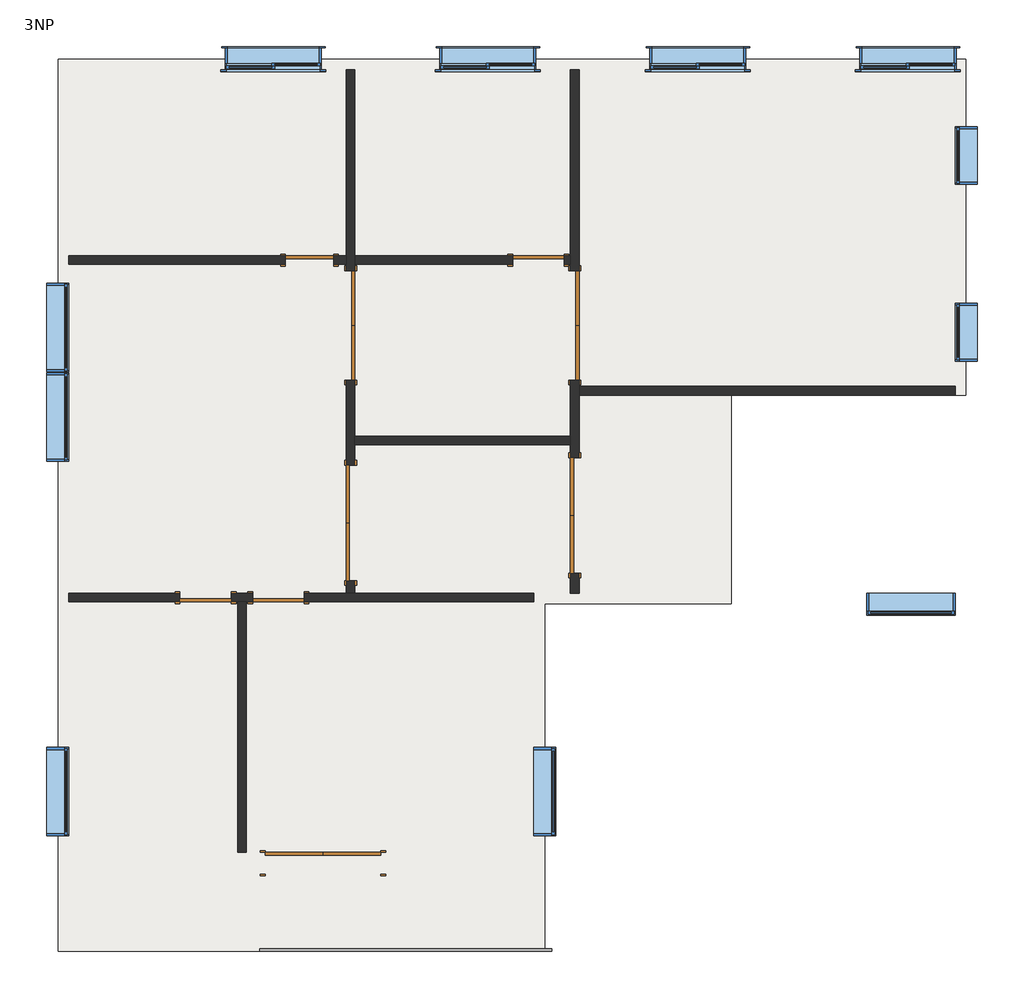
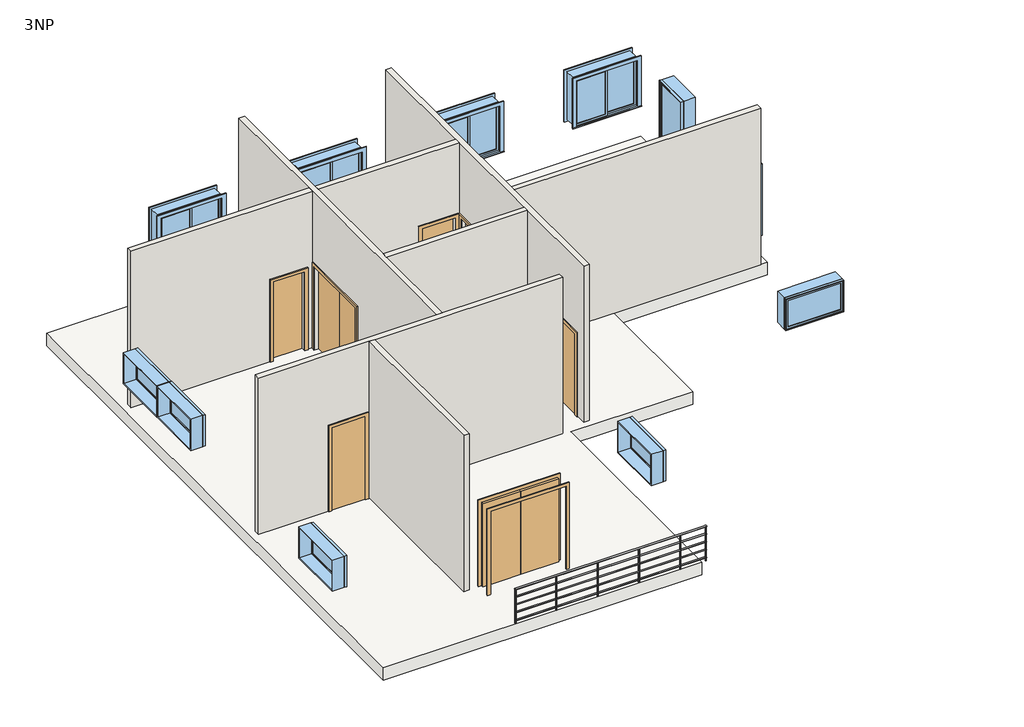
# One storey: 11 windows, 9 doors, 8 walls, 1 railing, 1 slab.
"""IFC4 building model written with IfcOpenShell, lengths in millimetres."""

from ifc_helpers import new_model, si_unit, frame, origin, place, context, project, spatial, polyline, outline, extrude, faceted_brep, transform, mapped, element, save
from components import m_double_flush_1730_x_2134mm_ea805d98, m_double_flush_1830_x_2083mm_7a28c534, m_double_flush_1830_x_2134mm_224c2c1d, m_single_flush_0762_x_2032mm_93de2473, m_single_flush_0813_x_2134mm_bf4bb56d, m_single_flush_0813_x_2134mm_cfdfac75, railing_900mm_pipe_c553a1ad, m_fixed_0915_x_1830mm_e21fde83, m_fixed_1400_x_0800mm_a23a53e8, m_sliding_with_trim_1830_x_1220mm_f8e2f31e

model = new_model("IFC4")

# Units and contexts
model_context = context("Model", 3, world=origin())
ifc_project = project(units=[si_unit("LENGTHUNIT", "METRE", prefix="MILLI")], contexts=[model_context])

# Site, building, storey
site = spatial("IfcSite", under=ifc_project)
building = spatial("IfcBuilding", under=site)
storey = spatial("IfcBuildingStorey", under=building, Name="3NP", Elevation=8000.0)

# Doors
placement = place(None, origin())
m_double_flush_1730_x_2134mm_shape = m_double_flush_1730_x_2134mm_ea805d98(model_context)
element("IfcDoor", 1, ObjectType="M_Double-Flush : 1730 x 2134mm", at=placement, inside=storey, context=model_context, shape_type="MappedRepresentation", body=[
    mapped(m_double_flush_1730_x_2134mm_shape, transform((833.993045, 5665.0261065, 8000.0), x_axis=(0.0, 1.0, 0.0), y_axis=(-1.0, 0.0, 0.0), z_axis=(0.0, 0.0, 1.0))),
])
element("IfcDoor", 2, ObjectType="M_Double-Flush : 1730 x 2134mm", at=placement, inside=storey, context=model_context, shape_type="MappedRepresentation", body=[
    mapped(m_double_flush_1730_x_2134mm_shape, transform((-2716.006955, 5665.0261065, 8000.0), x_axis=(0.0, 1.0, 0.0), y_axis=(-1.0, 0.0, 0.0), z_axis=(0.0, 0.0, 1.0))),
])
m_double_flush_1830_x_2083mm_shape = m_double_flush_1830_x_2083mm_7a28c534(model_context)
element("IfcDoor", 3, ObjectType="M_Double-Flush : 1830 x 2083mm", at=placement, inside=storey, context=model_context, shape_type="MappedRepresentation", body=[
    mapped(m_double_flush_1830_x_2083mm_shape, transform((-2716.006955, 2539.8026806, 8000.0), x_axis=(0.0, 1.0, 0.0), y_axis=(-1.0, 0.0, 0.0), z_axis=(0.0, 0.0, 1.0))),
])
element("IfcDoor", 4, ObjectType="M_Double-Flush : 1830 x 2083mm", at=placement, inside=storey, context=model_context, shape_type="MappedRepresentation", body=[
    mapped(m_double_flush_1830_x_2083mm_shape, transform((833.993045, 2658.1003657, 8000.0), x_axis=(0.0, 1.0, 0.0), y_axis=(-1.0, 0.0, 0.0), z_axis=(0.0, 0.0, 1.0))),
])
m_double_flush_1830_x_2134mm_shape = m_double_flush_1830_x_2134mm_224c2c1d(model_context)
element("IfcDoor", 5, ObjectType="M_Double-Flush : 1830 x 2134mm", at=placement, inside=storey, context=model_context, shape_type="MappedRepresentation", body=[
    mapped(m_double_flush_1830_x_2134mm_shape, transform((-3151.8077176, -2850.1973194, 8000.0), x_axis=(0.9999999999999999, 0.0, 0.0), y_axis=(0.0, 0.9999999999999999, 0.0), z_axis=(0.0, 0.0, 1.0))),
])
m_single_flush_0762_x_2032mm_shape = m_single_flush_0762_x_2032mm_93de2473(model_context)
element("IfcDoor", 6, ObjectType="M_Single-Flush : 0762 x 2032mm", at=placement, inside=storey, context=model_context, shape_type="MappedRepresentation", body=[
    mapped(m_single_flush_0762_x_2032mm_shape, transform((-3366.256955, 6699.2761065, 8000.0), x_axis=(1.0, 0.0, 0.0), y_axis=(0.0, 1.0, 0.0), z_axis=(0.0, 0.0, 1.0))),
])
m_single_flush_0813_x_2134mm_shape = m_single_flush_0813_x_2134mm_bf4bb56d(model_context)
element("IfcDoor", 7, ObjectType="M_Single-Flush : 0813 x 2134mm", at=placement, inside=storey, context=model_context, shape_type="MappedRepresentation", body=[
    mapped(m_single_flush_0813_x_2134mm_shape, transform((-5011.8077176, 1355.5526806, 8000.0), x_axis=(1.0, 0.0, 0.0), y_axis=(0.0, 1.0, 0.0), z_axis=(0.0, 0.0, 1.0))),
])
m_single_flush_0813_x_2134mm_2_shape = m_single_flush_0813_x_2134mm_cfdfac75(model_context)
element("IfcDoor", 8, ObjectType="M_Single-Flush : 0813 x 2134mm", at=placement, inside=storey, context=model_context, shape_type="MappedRepresentation", body=[
    mapped(m_single_flush_0813_x_2134mm_2_shape, transform((-3860.3077176, 1355.5526806, 8000.0), x_axis=(-1.0, 0.0, 0.0), y_axis=(0.0, -1.0, 0.0), z_axis=(0.0, 0.0, 1.0))),
])
element("IfcDoor", 9, ObjectType="M_Single-Flush : 0813 x 2134mm", at=placement, inside=storey, context=model_context, shape_type="MappedRepresentation", body=[
    mapped(m_single_flush_0813_x_2134mm_2_shape, transform((258.243045, 6699.2761065, 8000.0), x_axis=(1.0, 0.0, 0.0), y_axis=(0.0, 1.0, 0.0), z_axis=(0.0, 0.0, 1.0))),
])

# Railing
railing_900mm_pipe_shape = railing_900mm_pipe_c553a1ad(model_context)
element("IfcRailing", 10, ObjectType="900mm Pipe", at=placement, inside=storey, context=model_context, shape_type="MappedRepresentation", body=[
    mapped(railing_900mm_pipe_shape, transform((0.0, 0.0, 0.0), x_axis=(1.0, 0.0, 0.0), y_axis=(0.0, 1.0, 0.0), z_axis=(0.0, 0.0, 1.0))),
])

# Slab
element("IfcSlab", 11, ObjectType="Residential 320mm", at=placement, inside=storey, context=model_context, shape_type="SweptSolid", body=[
    extrude(outline(polyline([(-7345.3077176, 9876.6003657), (7023.993045, 9876.6003657), (7023.993045, 4561.5261065), (3308.993045, 4561.5261065), (3308.993045, 1259.8026806), (357.3775179, 1259.8026806), (357.3775179, -4240.1973194), (-7345.3077176, -4240.1973194), (-7345.3077176, 9876.6003657)])), frame((0.0, 0.0, 7680.0), z_axis=(0.0, 0.0, 1.0), x_axis=(1.0, 0.0, 0.0)), (0.0, 0.0, 1.0), 320.0),
])

# Walls
element("IfcWall", 12, ObjectType="Interior - 138mm Partition (1-hr)", at=placement, inside=storey, context=model_context, shape_type="Brep", body=[
    faceted_brep([(-4266.8077176, 1424.8026806, 10134.0), (-4266.8077176, 1424.8026806, 8000.0), (-4605.3077176, 1424.8026806, 8000.0), (-4605.3077176, 1424.8026806, 10134.0), (-5418.3077176, 1424.8026806, 10134.0), (-5418.3077176, 1424.8026806, 8000.0), (-7180.3077176, 1424.8026806, 8000.0), (-7180.3077176, 1424.8026806, 12000.0), (-2785.256955, 1424.8026806, 12000.0), (-2646.756955, 1424.8026806, 12000.0), (182.3775179, 1424.8026806, 12000.0), (182.3775179, 1424.8026806, 8000.0), (-2646.756955, 1424.8026806, 8000.0), (-2785.256955, 1424.8026806, 8000.0), (-3453.8077176, 1424.8026806, 8000.0), (-3453.8077176, 1424.8026806, 10134.0), (-4605.3077176, 1286.3026806, 8000.0), (-4505.3077176, 1286.3026806, 8000.0), (-4366.8077176, 1286.3026806, 8000.0), (-4266.8077176, 1286.3026806, 8000.0), (-4266.8077176, 1286.3026806, 10134.0), (-3453.8077176, 1286.3026806, 10134.0), (-3453.8077176, 1286.3026806, 8000.0), (182.3775179, 1286.3026806, 8000.0), (182.3775179, 1286.3026806, 12000.0), (-4366.8077176, 1286.3026806, 12000.0), (-4505.3077176, 1286.3026806, 12000.0), (-7180.3077176, 1286.3026806, 12000.0), (-7180.3077176, 1286.3026806, 8000.0), (-5418.3077176, 1286.3026806, 8000.0), (-5418.3077176, 1286.3026806, 10134.0), (-4605.3077176, 1286.3026806, 10134.0)], [[[0, 1, 2, 3, 4, 5, 6, 7, 8, 9, 10, 11, 12, 13, 14, 15]], [[16, 17, 18, 19, 20, 21, 22, 23, 24, 25, 26, 27, 28, 29, 30, 31]], [[2, 1, 19, 18, 17, 16]], [[29, 28, 6, 5]], [[14, 13, 12, 11, 23, 22]], [[10, 9, 8, 7, 27, 26, 25, 24]], [[7, 6, 28, 27]], [[11, 10, 24, 23]], [[3, 2, 16, 31]], [[4, 3, 31, 30]], [[5, 4, 30, 29]], [[20, 19, 1, 0]], [[21, 20, 0, 15]], [[22, 21, 15, 14]]]),
])
element("IfcWall", 13, ObjectType="Interior - 138mm Partition (1-hr)", at=placement, inside=storey, context=model_context, shape_type="SweptSolid", body=[
    extrude(outline(polyline([(-4505.3077176, -2675.1973194), (-4505.3077176, 1286.3026806), (-4366.8077176, 1286.3026806), (-4366.8077176, -2675.1973194), (-4505.3077176, -2675.1973194)])), frame((0.0, 0.0, 8000.0), z_axis=(0.0, 0.0, 1.0), x_axis=(1.0, 0.0, 0.0)), (0.0, 0.0, 1.0), 4000.0),
])
element("IfcWall", 14, ObjectType="Interior - 138mm Partition (1-hr)", at=placement, inside=storey, context=model_context, shape_type="Brep", body=[
    faceted_brep([(903.243045, 3573.1003657, 10083.0), (903.243045, 3573.1003657, 8000.0), (903.243045, 4561.5261065, 8000.0), (903.243045, 4700.0261065, 8000.0), (903.243045, 4800.0261065, 8000.0), (903.243045, 4800.0261065, 10134.0), (903.243045, 6530.0261065, 10134.0), (903.243045, 6530.0261065, 8000.0), (903.243045, 9711.6003657, 8000.0), (903.243045, 9711.6003657, 12000.0), (903.243045, 4700.0261065, 12000.0), (903.243045, 4561.5261065, 12000.0), (903.243045, 1424.8026806, 12000.0), (903.243045, 1424.8026806, 8000.0), (903.243045, 1743.1003657, 8000.0), (903.243045, 1743.1003657, 10083.0), (764.743045, 4800.0261065, 8000.0), (764.743045, 3911.6003657, 8000.0), (764.743045, 3773.1003657, 8000.0), (764.743045, 3573.1003657, 8000.0), (764.743045, 3573.1003657, 10083.0), (764.743045, 1743.1003657, 10083.0), (764.743045, 1743.1003657, 8000.0), (764.743045, 1424.8026806, 8000.0), (764.743045, 1424.8026806, 12000.0), (764.743045, 3773.1003657, 12000.0), (764.743045, 3911.6003657, 12000.0), (764.743045, 6630.0261065, 12000.0), (764.743045, 6768.5261065, 12000.0), (764.743045, 9711.6003657, 12000.0), (764.743045, 9711.6003657, 8000.0), (764.743045, 6768.5261065, 8000.0), (764.743045, 6630.0261065, 8000.0), (764.743045, 6530.0261065, 8000.0), (764.743045, 6530.0261065, 10134.0), (764.743045, 4800.0261065, 10134.0), (833.993045, 9711.6003657, 8000.0), (833.993045, 9711.6003657, 12000.0)], [[[0, 1, 2, 3, 4, 5, 6, 7, 8, 9, 10, 11, 12, 13, 14, 15]], [[16, 17, 18, 19, 20, 21, 22, 23, 24, 25, 26, 27, 28, 29, 30, 31, 32, 33, 34, 35]], [[8, 7, 33, 32, 31, 30, 36]], [[4, 3, 2, 1, 19, 18, 17, 16]], [[14, 13, 23, 22]], [[12, 11, 10, 9, 37, 29, 28, 27, 26, 25, 24]], [[9, 8, 36, 30, 29, 37]], [[13, 12, 24, 23]], [[34, 33, 7, 6]], [[35, 34, 6, 5]], [[16, 35, 5, 4]], [[20, 19, 1, 0]], [[21, 20, 0, 15]], [[22, 21, 15, 14]]]),
])
element("IfcWall", 15, ObjectType="Interior - 138mm Partition (1-hr)", at=placement, inside=storey, context=model_context, shape_type="SweptSolid", body=[
    extrude(outline(polyline([(-2646.756955, 3911.6003657), (764.743045, 3911.6003657), (764.743045, 3773.1003657), (-2646.756955, 3773.1003657), (-2646.756955, 3911.6003657)])), frame((0.0, 0.0, 8000.0), z_axis=(0.0, 0.0, 1.0), x_axis=(1.0, 0.0, 0.0)), (0.0, 0.0, 1.0), 4000.0),
])
element("IfcWall", 16, ObjectType="Interior - 138mm Partition (1-hr)", at=placement, inside=storey, context=model_context, shape_type="Brep", body=[
    faceted_brep([(-2646.756955, 3454.8026806, 10083.0), (-2646.756955, 3454.8026806, 8000.0), (-2646.756955, 3773.1003657, 8000.0), (-2646.756955, 3911.6003657, 8000.0), (-2646.756955, 4800.0261065, 8000.0), (-2646.756955, 4800.0261065, 10134.0), (-2646.756955, 6530.0261065, 10134.0), (-2646.756955, 6530.0261065, 8000.0), (-2646.756955, 6630.0261065, 8000.0), (-2646.756955, 6768.5261065, 8000.0), (-2646.756955, 9711.6003657, 8000.0), (-2646.756955, 9711.6003657, 12000.0), (-2646.756955, 6768.5261065, 12000.0), (-2646.756955, 6630.0261065, 12000.0), (-2646.756955, 3911.6003657, 12000.0), (-2646.756955, 3773.1003657, 12000.0), (-2646.756955, 1424.8026806, 12000.0), (-2646.756955, 1424.8026806, 8000.0), (-2646.756955, 1624.8026806, 8000.0), (-2646.756955, 1624.8026806, 10083.0), (-2785.256955, 4800.0261065, 8000.0), (-2785.256955, 3454.8026806, 8000.0), (-2785.256955, 3454.8026806, 10083.0), (-2785.256955, 1624.8026806, 10083.0), (-2785.256955, 1624.8026806, 8000.0), (-2785.256955, 1424.8026806, 8000.0), (-2785.256955, 1424.8026806, 12000.0), (-2785.256955, 6630.0261065, 12000.0), (-2785.256955, 6768.5261065, 12000.0), (-2785.256955, 9711.6003657, 12000.0), (-2785.256955, 9711.6003657, 8000.0), (-2785.256955, 6768.5261065, 8000.0), (-2785.256955, 6630.0261065, 8000.0), (-2785.256955, 6530.0261065, 8000.0), (-2785.256955, 6530.0261065, 10134.0), (-2785.256955, 4800.0261065, 10134.0)], [[[0, 1, 2, 3, 4, 5, 6, 7, 8, 9, 10, 11, 12, 13, 14, 15, 16, 17, 18, 19]], [[20, 21, 22, 23, 24, 25, 26, 27, 28, 29, 30, 31, 32, 33, 34, 35]], [[10, 9, 8, 7, 33, 32, 31, 30]], [[4, 3, 2, 1, 21, 20]], [[18, 17, 25, 24]], [[16, 15, 14, 13, 12, 11, 29, 28, 27, 26]], [[17, 16, 26, 25]], [[11, 10, 30, 29]], [[34, 33, 7, 6]], [[35, 34, 6, 5]], [[20, 35, 5, 4]], [[22, 21, 1, 0]], [[23, 22, 0, 19]], [[24, 23, 19, 18]]]),
])
element("IfcWall", 17, ObjectType="Interior - 138mm Partition (1-hr)", at=placement, inside=storey, context=model_context, shape_type="SweptSolid", body=[
    extrude(outline(polyline([(10134.0, 664.743045), (8000.0, 664.743045), (8000.0, 764.743045), (12000.0, 764.743045), (12000.0, -2646.756955), (8000.0, -2646.756955), (8000.0, -148.256955), (10134.0, -148.256955), (10134.0, 664.743045)])), frame((0.0, 6630.0261065, 0.0), z_axis=(0.0, 1.0, 0.0), x_axis=(0.0, 0.0, 1.0)), (0.0, 0.0, 1.0), 138.5),
])
element("IfcWall", 18, ObjectType="Interior - 138mm Partition (1-hr)", at=placement, inside=storey, context=model_context, shape_type="SweptSolid", body=[
    extrude(outline(polyline([(10032.0, -2985.256955), (8000.0, -2985.256955), (8000.0, -2785.256955), (12000.0, -2785.256955), (12000.0, -7180.3077176), (8000.0, -7180.3077176), (8000.0, -3747.256955), (10032.0, -3747.256955), (10032.0, -2985.256955)])), frame((0.0, 6630.0261065, 0.0), z_axis=(0.0, 1.0, 0.0), x_axis=(0.0, 0.0, 1.0)), (0.0, 0.0, 1.0), 138.5),
])
element("IfcWall", 19, ObjectType="Interior - 138mm Partition (1-hr)", at=placement, inside=storey, context=model_context, shape_type="SweptSolid", body=[
    extrude(outline(polyline([(6858.993045, 4561.5261065), (903.243045, 4561.5261065), (903.243045, 4700.0261065), (6858.993045, 4700.0261065), (6858.993045, 4561.5261065)])), frame((0.0, 0.0, 8000.0), z_axis=(0.0, 0.0, 1.0), x_axis=(1.0, 0.0, 0.0)), (0.0, 0.0, 1.0), 4000.0),
])

# Windows
m_fixed_0915_x_1830mm_shape = m_fixed_0915_x_1830mm_e21fde83(model_context)
element("IfcWindow", 20, ObjectType="M_Fixed : 0915 x 1830mm", at=placement, inside=storey, context=model_context, shape_type="MappedRepresentation", body=[
    mapped(m_fixed_0915_x_1830mm_shape, transform((7046.993045, 5557.5261065, 8000.0), x_axis=(0.0, 1.0, 0.0), y_axis=(-1.0, 0.0, 0.0), z_axis=(0.0, 0.0, 1.0))),
])
element("IfcWindow", 21, ObjectType="M_Fixed : 0915 x 1830mm", at=placement, inside=storey, context=model_context, shape_type="MappedRepresentation", body=[
    mapped(m_fixed_0915_x_1830mm_shape, transform((7046.993045, 8354.1003657, 8000.0), x_axis=(0.0, 1.0, 0.0), y_axis=(-1.0, 0.0, 0.0), z_axis=(0.0, 0.0, 1.0))),
])
m_fixed_1400_x_0800mm_shape = m_fixed_1400_x_0800mm_a23a53e8(model_context)
element("IfcWindow", 22, ObjectType="M_Fixed : 1400 x 0800mm", at=placement, inside=storey, context=model_context, shape_type="MappedRepresentation", body=[
    mapped(m_fixed_1400_x_0800mm_shape, transform((-7368.3077176, -1717.6973194, 8000.0), x_axis=(0.0, -1.0, 0.0), y_axis=(1.0, 0.0, 0.0), z_axis=(0.0, 0.0, 1.0))),
])
element("IfcWindow", 23, ObjectType="M_Fixed : 1400 x 0800mm", at=placement, inside=storey, context=model_context, shape_type="MappedRepresentation", body=[
    mapped(m_fixed_1400_x_0800mm_shape, transform((-7368.3077176, 4217.3026806, 8000.0), x_axis=(0.0, -1.0, 0.0), y_axis=(1.0, 0.0, 0.0), z_axis=(0.0, 0.0, 1.0))),
])
element("IfcWindow", 24, ObjectType="M_Fixed : 1400 x 0800mm", at=placement, inside=storey, context=model_context, shape_type="MappedRepresentation", body=[
    mapped(m_fixed_1400_x_0800mm_shape, transform((-7368.3077176, 5632.3026806, 8000.0), x_axis=(0.0, -1.0, 0.0), y_axis=(1.0, 0.0, 0.0), z_axis=(0.0, 0.0, 1.0))),
])
element("IfcWindow", 25, ObjectType="M_Fixed : 1400 x 0800mm", at=placement, inside=storey, context=model_context, shape_type="MappedRepresentation", body=[
    mapped(m_fixed_1400_x_0800mm_shape, transform((344.3775179, -1717.6973194, 8000.0), x_axis=(0.0, -1.0, 0.0), y_axis=(1.0, 0.0, 0.0), z_axis=(0.0, 0.0, 1.0))),
])
element("IfcWindow", 26, ObjectType="M_Fixed : 1400 x 0800mm", at=placement, inside=storey, context=model_context, shape_type="MappedRepresentation", body=[
    mapped(m_fixed_1400_x_0800mm_shape, transform((6158.993045, 1262.8026806, 8000.0), x_axis=(-1.0, 0.0, 0.0), y_axis=(0.0, -1.0, 0.0), z_axis=(0.0, 0.0, 1.0))),
])
m_sliding_with_trim_1830_x_1220mm_shape = m_sliding_with_trim_1830_x_1220mm_f8e2f31e(model_context)
element("IfcWindow", 27, ObjectType="M_Sliding with Trim : 1830 x 1220mm", at=placement, inside=storey, context=model_context, shape_type="MappedRepresentation", body=[
    mapped(m_sliding_with_trim_1830_x_1220mm_shape, transform((6107.6922824, 9886.6003657, 8000.0), x_axis=(-1.0, 0.0, 0.0), y_axis=(0.0, -1.0, 0.0), z_axis=(0.0, 0.0, 1.0))),
])
element("IfcWindow", 28, ObjectType="M_Sliding with Trim : 1830 x 1220mm", at=placement, inside=storey, context=model_context, shape_type="MappedRepresentation", body=[
    mapped(m_sliding_with_trim_1830_x_1220mm_shape, transform((2781.6922824, 9886.6003657, 8000.0), x_axis=(-1.0, 0.0, 0.0), y_axis=(0.0, -1.0, 0.0), z_axis=(0.0, 0.0, 1.0))),
])
element("IfcWindow", 29, ObjectType="M_Sliding with Trim : 1830 x 1220mm", at=placement, inside=storey, context=model_context, shape_type="MappedRepresentation", body=[
    mapped(m_sliding_with_trim_1830_x_1220mm_shape, transform((-544.3077176, 9886.6003657, 8000.0), x_axis=(-1.0, 0.0, 0.0), y_axis=(0.0, -1.0, 0.0), z_axis=(0.0, 0.0, 1.0))),
])
element("IfcWindow", 30, ObjectType="M_Sliding with Trim : 1830 x 1220mm", at=placement, inside=storey, context=model_context, shape_type="MappedRepresentation", body=[
    mapped(m_sliding_with_trim_1830_x_1220mm_shape, transform((-3940.1577176, 9886.6003657, 8000.0), x_axis=(-1.0, 0.0, 0.0), y_axis=(0.0, -1.0, 0.0), z_axis=(0.0, 0.0, 1.0))),
])

save(model, "model.ifc")
